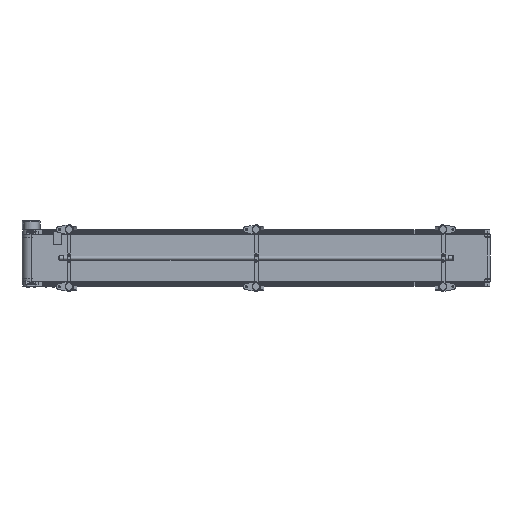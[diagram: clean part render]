
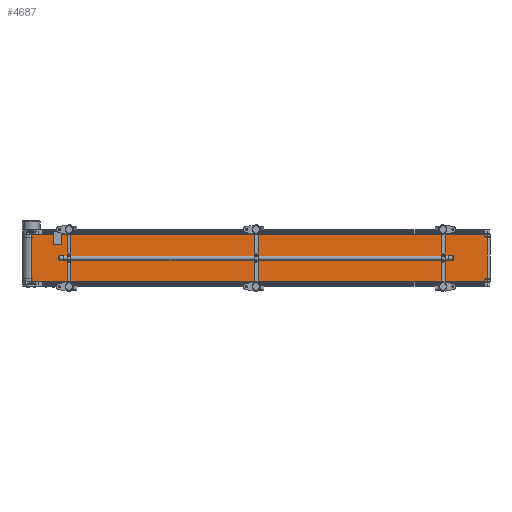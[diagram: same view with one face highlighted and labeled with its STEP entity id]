
A CAD part, front view. The second image highlights one B-rep face of the part: STEP entity #4687.
In plain terms, the highlighted planar face has unit normal (0.028, -1, 0).
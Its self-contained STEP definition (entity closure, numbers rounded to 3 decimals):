
#4687=ADVANCED_FACE('',(#29980),#29979,.F.);
#29979=PLANE('',#45983);
#29980=FACE_OUTER_BOUND('',#45984,.T.);
#45980=CARTESIAN_POINT('',(2992.998,-33.417,-160.));
#45981=DIRECTION('',(-0.028,1.,0.));
#45982=DIRECTION('',(-1.,-0.028,0.));
#45983=AXIS2_PLACEMENT_3D('',#45980,#45981,#45982);
#45984=EDGE_LOOP('',(#59032,#59033,#59034,#59035));
#59032=ORIENTED_EDGE('',*,*,#65990,.T.);
#59033=ORIENTED_EDGE('',*,*,#65997,.F.);
#59034=ORIENTED_EDGE('',*,*,#65984,.F.);
#59035=ORIENTED_EDGE('',*,*,#65998,.T.);
#65984=EDGE_CURVE('',#107379,#107364,#107386,.T.);
#65990=EDGE_CURVE('',#107428,#107420,#107429,.T.);
#65997=EDGE_CURVE('',#107364,#107420,#107476,.T.);
#65998=EDGE_CURVE('',#107379,#107428,#107482,.T.);
#107364=VERTEX_POINT('',#135455);
#107379=VERTEX_POINT('',#135465);
#107386=LINE('',#135470,#135471);
#107420=VERTEX_POINT('',#135491);
#107428=VERTEX_POINT('',#135497);
#107429=LINE('',#135498,#135499);
#107476=LINE('',#135527,#135528);
#107482=LINE('',#135530,#135531);
#135455=CARTESIAN_POINT('',(2983.002,-33.693,150.));
#135465=CARTESIAN_POINT('',(59.109,-114.328,150.));
#135470=CARTESIAN_POINT('',(59.109,-114.328,150.));
#135471=VECTOR('',#135472,2925.005);
#135472=DIRECTION('',(1.,0.028,0.));
#135491=CARTESIAN_POINT('',(2983.002,-33.693,-150.));
#135497=CARTESIAN_POINT('',(59.109,-114.328,-150.));
#135498=CARTESIAN_POINT('',(59.109,-114.328,-150.));
#135499=VECTOR('',#135500,2925.005);
#135500=DIRECTION('',(1.,0.028,0.));
#135527=CARTESIAN_POINT('',(2983.002,-33.693,150.));
#135528=VECTOR('',#135529,300.);
#135529=DIRECTION('',(0.,0.,-1.));
#135530=CARTESIAN_POINT('',(59.109,-114.328,150.));
#135531=VECTOR('',#135532,300.);
#135532=DIRECTION('',(0.,0.,-1.));
